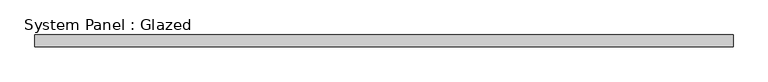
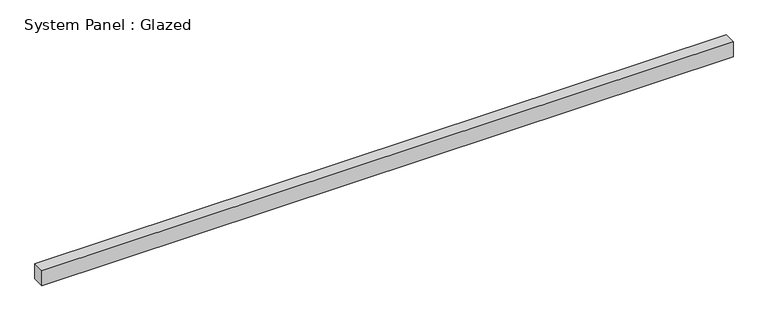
"""IFC4 building model written with IfcOpenShell, lengths in millimetres: plate geometry, System Panel : Glazed."""

from ifc_helpers import new_model, si_unit, origin, origin_with_axes, place, context, project, spatial, polyline, outline, extrude, source, transform, mapped, element, save


def system_panel_glazed_780b5e3c(model_context):
    return source(origin(), model_context, "Body", "SweptSolid", [
        extrude(outline(polyline([(724.5000001, 24.5), (-724.5000001, 24.5), (-724.5000001, 49.5), (724.5000001, 49.5), (724.5000001, 24.5)])), origin_with_axes(), (0.0, 0.0, 1.0), 33.25),
    ])


if __name__ == "__main__":
    model = new_model("IFC4")
    model_context = context("Model", 3, world=origin())
    ifc_project = project(units=[si_unit("LENGTHUNIT", "METRE", prefix="MILLI")], contexts=[model_context])
    site = spatial("IfcSite", under=ifc_project)
    building = spatial("IfcBuilding", under=site)
    placement = place(None, origin())
    system_panel_glazed_shape = system_panel_glazed_780b5e3c(model_context)
    element("IfcPlate", 1, ObjectType="System Panel : Glazed", at=placement, inside=building, context=model_context, shape_type="MappedRepresentation", body=[
        mapped(system_panel_glazed_shape, transform((0.0, 0.0, 0.0), x_axis=(1.0, 0.0, 0.0), y_axis=(0.0, 1.0, 0.0), z_axis=(0.0, 0.0, 1.0))),
    ])
    save(model, "model.ifc")
